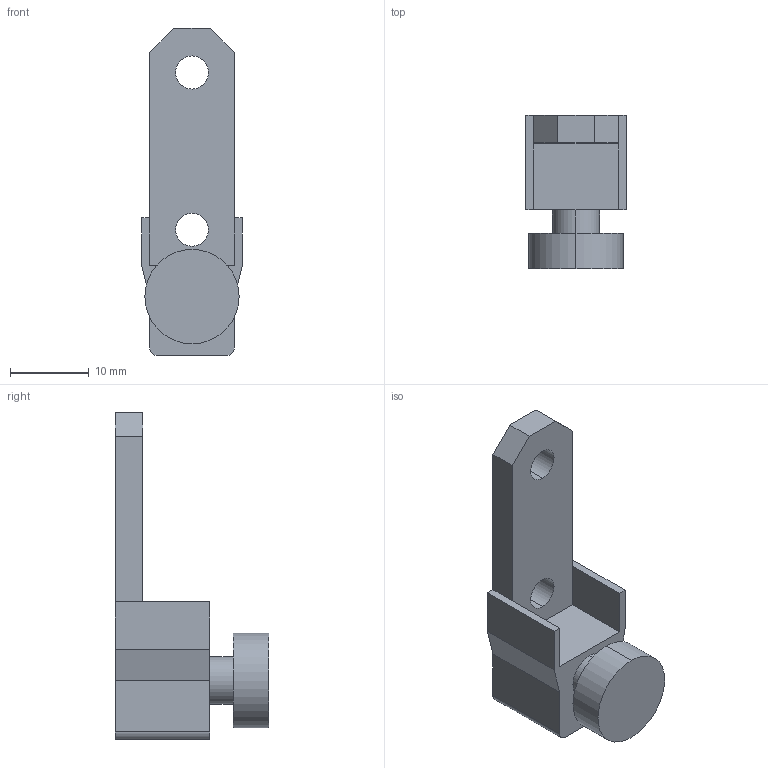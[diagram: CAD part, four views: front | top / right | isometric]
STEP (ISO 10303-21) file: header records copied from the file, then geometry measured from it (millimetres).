
FILE_DESCRIPTION (( 'STEP AP214' ), '1' );
FILE_NAME ('_Relingshalter_Anschraub_NOVA-Pro.step', '2010-08-27T08:37:10', ( 'grass' ), ( '' ), 'SwSTEP 2.0', 'SolidWorks 2009', '' );
FILE_SCHEMA (( 'AUTOMOTIVE_DESIGN' ));
Length unit declared in the file: millimetre
Products named in the file (1): _Relingshalter_Anschraub_NOVA-Pro
Bounding box: 12.8 x 19.5 x 41.6 mm (x, y, z)
Volume: 3279.3 mm3; surface area: 2297.9 mm2
Topology: 1 solids, 1 shells, 32 faces, 82 edges, 54 vertices
Faces by surface type: plane 22, cylinder 10
Entity records: 1012 total; most frequent: CARTESIAN_POINT 169, DIRECTION 168, ORIENTED_EDGE 164, EDGE_CURVE 82, LINE 62, VECTOR 62, VERTEX_POINT 54, AXIS2_PLACEMENT_3D 53
